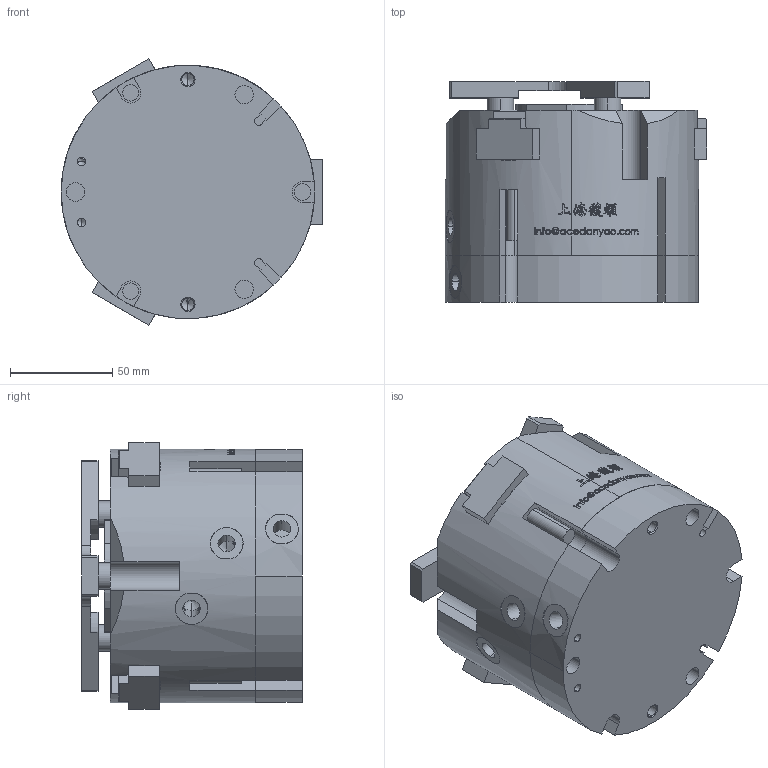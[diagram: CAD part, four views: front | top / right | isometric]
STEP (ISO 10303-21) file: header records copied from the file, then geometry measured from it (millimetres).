
FILE_DESCRIPTION (( 'STEP AP203' ), '1' );
FILE_NAME ('MAC3-125-C1-P-MC&MA-原始檔-組合-W106.04.14.STEP', '2017-04-14T03:27:40', ( 'DanyaoCAD' ), ( '' ), 'SwSTEP 2.0', 'SolidWorks 2016', '' );
FILE_SCHEMA (( 'CONFIG_CONTROL_DESIGN' ));
Length unit declared in the file: millimetre
Products named in the file (6): Griffa; Fondello; Corpo; Coperchio; Piattello; MAC3-125-C1-P-MC&MA-原始檔-組合-W106.04.14
Assembly tree (7 placements, depth 2):
  MAC3-125-C1-P-MC&MA-原始檔-組合-W106.04.14
    Griffa  x3
    Fondello
    Corpo
    Coperchio
    Piattello
Bounding box: 128 x 108 x 130.32 mm (x, y, z)
Volume: 1079772.1 mm3; surface area: 158331.9 mm2
Topology: 7 solids, 7 shells, 1232 faces, 3395 edges, 2217 vertices
Faces by surface type: bspline 665, plane 292, cylinder 209, cone 66
Entity records: 94389 total; most frequent: CARTESIAN_POINT 69817, ORIENTED_EDGE 6378, EDGE_CURVE 3189, DIRECTION 2546, VERTEX_POINT 2113, B_SPLINE_CURVE_WITH_KNOTS 2051, EDGE_LOOP 1272, FACE_OUTER_BOUND 1166
